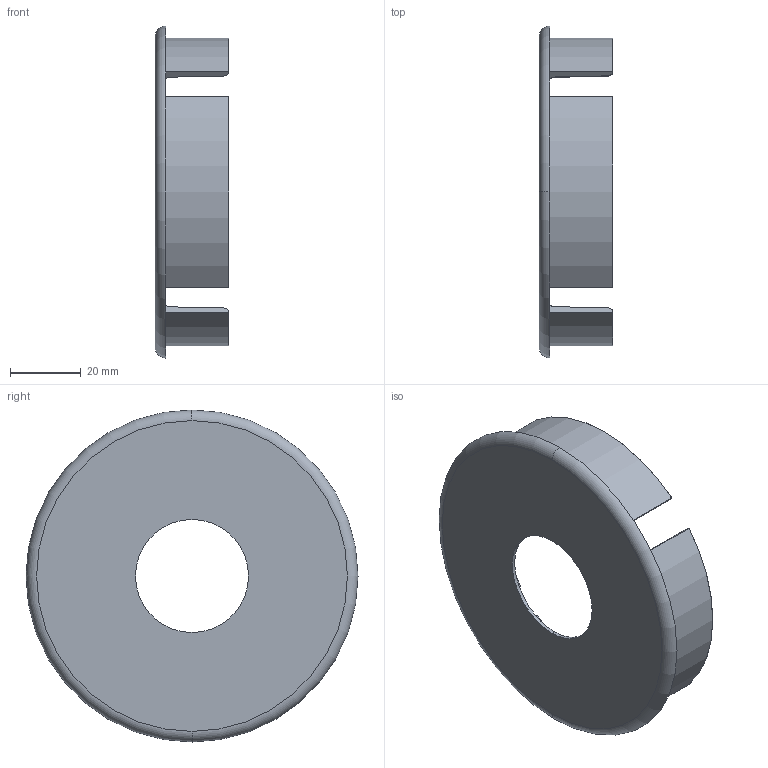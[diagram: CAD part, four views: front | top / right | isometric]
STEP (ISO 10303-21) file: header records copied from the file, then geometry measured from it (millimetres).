
FILE_DESCRIPTION (( 'STEP AP203' ), '1' );
FILE_NAME ('084.810.003.STEP', '2013-01-29T13:53:31', ( 'Alusic' ), ( 'Alusic' ), 'SwSTEP 2.0', 'SolidWorks 2011', '' );
FILE_SCHEMA (( 'CONFIG_CONTROL_DESIGN' ));
Length unit declared in the file: millimetre
Products named in the file (1): 084.810.003
Bounding box: 20.84 x 94 x 94 mm (x, y, z)
Volume: 23487.5 mm3; surface area: 21240.4 mm2
Topology: 1 solids, 1 shells, 39 faces, 96 edges, 64 vertices
Faces by surface type: plane 15, torus 12, cylinder 8, cone 4
Entity records: 1271 total; most frequent: DIRECTION 236, CARTESIAN_POINT 200, ORIENTED_EDGE 192, AXIS2_PLACEMENT_3D 100, EDGE_CURVE 96, VERTEX_POINT 64, CIRCLE 60, EDGE_LOOP 46
